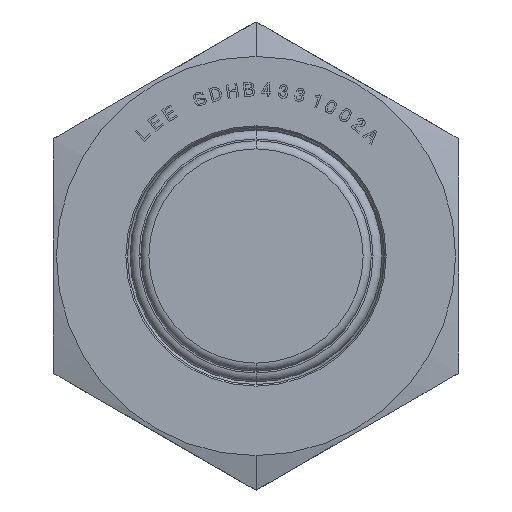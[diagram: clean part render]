
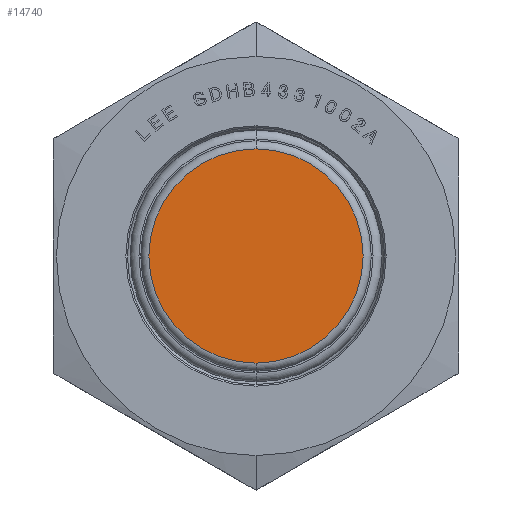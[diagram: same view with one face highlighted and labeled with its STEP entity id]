
A CAD part, left-side view. The second image highlights one B-rep face of the part: STEP entity #14740.
In plain terms, the highlighted planar face has unit normal (-1, 0, 0).
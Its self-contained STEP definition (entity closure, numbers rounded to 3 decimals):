
#14400=CARTESIAN_POINT('',(-35.894,17.914,0.));
#14410=VERTEX_POINT('',#14400);
#14500=CARTESIAN_POINT('',(-35.894,1.15,0.));
#14510=VERTEX_POINT('',#14500);
#14540=CARTESIAN_POINT('',(-35.894,9.532,0.));
#14550=DIRECTION('',(-1.,0.,0.));
#14560=DIRECTION('',(0.,1.,0.));
#14570=AXIS2_PLACEMENT_3D('',#14540,#14550,#14560);
#14580=CIRCLE('',#14570,8.382);
#14590=EDGE_CURVE('',#14510,#14410,#14580,.T.);
#14640=CARTESIAN_POINT('',(-35.894,13.723,0.));
#14650=DIRECTION('',(1.,0.,0.));
#14660=DIRECTION('',(0.,-1.,0.));
#14670=AXIS2_PLACEMENT_3D('',#14640,#14650,#14660);
#14680=PLANE('',#14670);
#14690=EDGE_CURVE('',#14410,#14510,#14580,.T.);
#14700=ORIENTED_EDGE('',*,*,#14690,.T.);
#14710=ORIENTED_EDGE('',*,*,#14590,.T.);
#14720=EDGE_LOOP('',(#14710,#14700));
#14730=FACE_OUTER_BOUND('',#14720,.T.);
#14740=ADVANCED_FACE('',(#14730),#14680,.F.);
